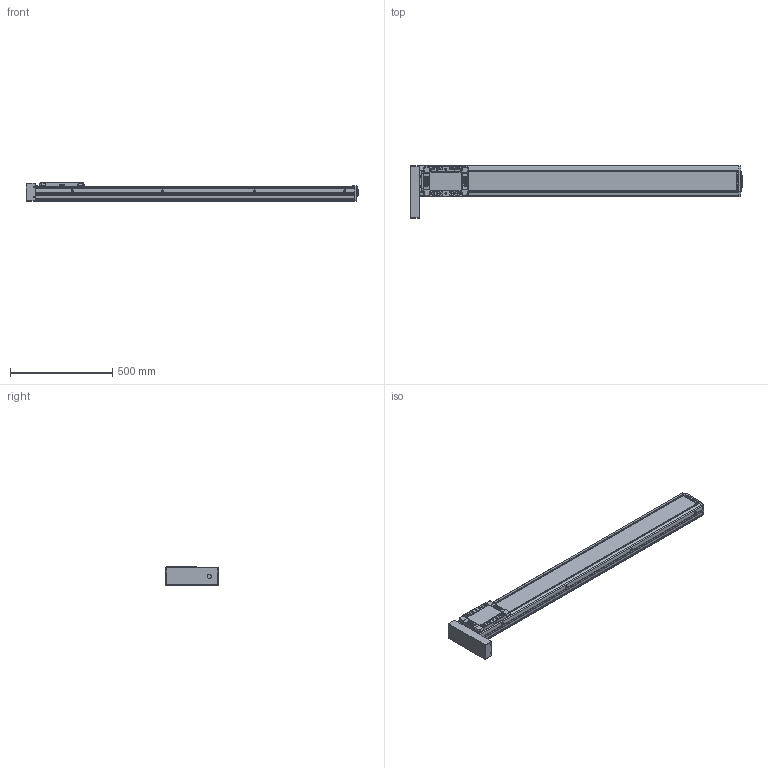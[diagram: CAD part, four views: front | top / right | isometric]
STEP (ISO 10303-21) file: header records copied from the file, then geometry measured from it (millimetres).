
FILE_DESCRIPTION(('STEP AP214'),'1');
FILE_NAME('Z:/Web/3D/SAN150/2013.04 (STP.)/SAN150ㅁㅁ-1300PR.stp','2013-05-07T08:41:05',(' '),(' '),'Spatial InterOp 3D',' ',' ');
FILE_SCHEMA(('automotive_design'));
Length unit declared in the file: millimetre
Products named in the file (44): SLBL-SAN150; SLCV-SAN150; FHCS M4.0 x 8.0; BHCS M4.0 x 10.0; SFX-SAN150; RRCV-SAN150; FRBL-SAN150; Spacer; RN15; FRCV-SAN150; Screw 20; BASE-SAN150-000L ; SUS COVER; 스크루 : Round - M5.0 x 6.0; BHCS M3.0 x 6.0; P
Bounding box: 1620 x 260.73 x 90 mm (x, y, z)
Volume: 9133721.6 mm3; surface area: 1586105.3 mm2
Topology: 44 solids, 44 shells, 2389 faces, 6125 edges, 3886 vertices
Faces by surface type: plane 1093, cylinder 873, cone 322, sphere 68, bspline 21, torus 12
Entity records: 95092 total; most frequent: CARTESIAN_POINT 15982, DIRECTION 13048, ORIENTED_EDGE 11954, EDGE_CURVE 5977, AXIS2_PLACEMENT_3D 4779, VERTEX_POINT 3886, LINE 3490, VECTOR 3490
